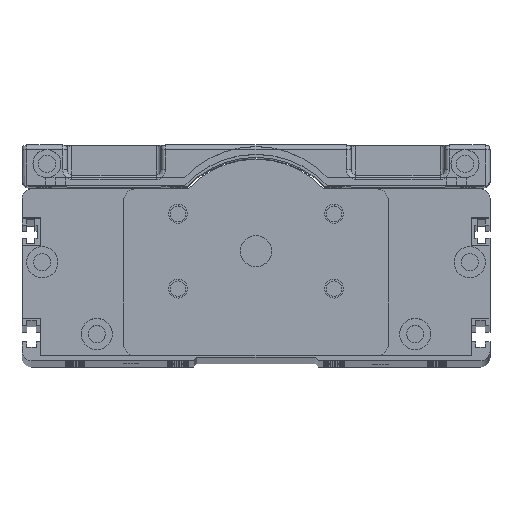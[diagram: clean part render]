
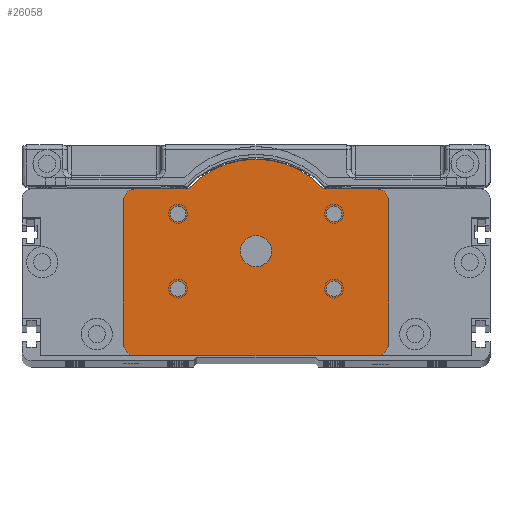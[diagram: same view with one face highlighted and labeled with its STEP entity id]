
A CAD part, top view. The second image highlights one B-rep face of the part: STEP entity #26058.
In plain terms, the highlighted planar face has unit normal (0, 0, 1).
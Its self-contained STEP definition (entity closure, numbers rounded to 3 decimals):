
#24700=CARTESIAN_POINT('',(38.5,49.5,29.));
#24701=DIRECTION('',(0.,0.,1.));
#24702=DIRECTION('',(1.,0.,0.));
#24703=AXIS2_PLACEMENT_3D('',#24700,#24701,#24702);
#24709=CARTESIAN_POINT('',(38.5,4.,29.));
#24710=DIRECTION('',(0.,0.,1.));
#24711=DIRECTION('',(0.,-1.,0.));
#24712=AXIS2_PLACEMENT_3D('',#24709,#24710,#24711);
#24861=CARTESIAN_POINT('',(-38.5,49.5,29.));
#24862=DIRECTION('',(0.,0.,1.));
#24863=DIRECTION('',(0.,1.,0.));
#24864=AXIS2_PLACEMENT_3D('',#24861,#24862,#24863);
#24875=DIRECTION('',(0.,1.,0.));
#24876=VECTOR('',#24875,45.5);
#24877=CARTESIAN_POINT('',(42.5,4.,29.));
#24878=LINE('',#24877,#24876);
#24879=DIRECTION('',(1.,0.,0.));
#24880=VECTOR('',#24879,77.);
#24881=CARTESIAN_POINT('',(-38.5,0.,29.));
#24882=LINE('',#24881,#24880);
#24883=DIRECTION('',(0.,1.,0.));
#24884=VECTOR('',#24883,45.5);
#24885=CARTESIAN_POINT('',(-42.5,4.,29.));
#24886=LINE('',#24885,#24884);
#24887=DIRECTION('',(-1.,0.,0.));
#24888=VECTOR('',#24887,16.815);
#24889=CARTESIAN_POINT('',(-21.685,53.5,29.));
#24890=LINE('',#24889,#24888);
#24891=CARTESIAN_POINT('',(0.,33.5,29.));
#24892=DIRECTION('',(0.,0.,1.));
#24893=DIRECTION('',(0.735,0.678,0.));
#24894=AXIS2_PLACEMENT_3D('',#24891,#24892,#24893);
#24896=DIRECTION('',(-1.,0.,0.));
#24897=VECTOR('',#24896,16.815);
#24898=CARTESIAN_POINT('',(38.5,53.5,29.));
#24899=LINE('',#24898,#24897);
#24900=CARTESIAN_POINT('',(0.,33.5,29.));
#24901=DIRECTION('',(0.,0.,1.));
#24902=DIRECTION('',(1.,0.,0.));
#24903=AXIS2_PLACEMENT_3D('',#24900,#24901,#24902);
#24905=CARTESIAN_POINT('',(0.,33.5,29.));
#24906=DIRECTION('',(0.,0.,1.));
#24907=DIRECTION('',(-1.,0.,0.));
#24908=AXIS2_PLACEMENT_3D('',#24905,#24906,#24907);
#24910=CARTESIAN_POINT('',(25.,45.5,29.));
#24911=DIRECTION('',(0.,0.,-1.));
#24912=DIRECTION('',(-1.,0.,0.));
#24913=AXIS2_PLACEMENT_3D('',#24910,#24911,#24912);
#24915=CARTESIAN_POINT('',(25.,45.5,29.));
#24916=DIRECTION('',(0.,0.,-1.));
#24917=DIRECTION('',(1.,0.,0.));
#24918=AXIS2_PLACEMENT_3D('',#24915,#24916,#24917);
#24920=CARTESIAN_POINT('',(25.,21.5,29.));
#24921=DIRECTION('',(0.,0.,1.));
#24922=DIRECTION('',(-1.,0.,0.));
#24923=AXIS2_PLACEMENT_3D('',#24920,#24921,#24922);
#24925=CARTESIAN_POINT('',(25.,21.5,29.));
#24926=DIRECTION('',(0.,0.,1.));
#24927=DIRECTION('',(1.,0.,0.));
#24928=AXIS2_PLACEMENT_3D('',#24925,#24926,#24927);
#24930=CARTESIAN_POINT('',(-25.,45.5,29.));
#24931=DIRECTION('',(0.,0.,1.));
#24932=DIRECTION('',(1.,0.,0.));
#24933=AXIS2_PLACEMENT_3D('',#24930,#24931,#24932);
#24935=CARTESIAN_POINT('',(-25.,45.5,29.));
#24936=DIRECTION('',(0.,0.,1.));
#24937=DIRECTION('',(-1.,0.,0.));
#24938=AXIS2_PLACEMENT_3D('',#24935,#24936,#24937);
#24940=CARTESIAN_POINT('',(-25.,21.5,29.));
#24941=DIRECTION('',(0.,0.,-1.));
#24942=DIRECTION('',(1.,0.,0.));
#24943=AXIS2_PLACEMENT_3D('',#24940,#24941,#24942);
#24945=CARTESIAN_POINT('',(-25.,21.5,29.));
#24946=DIRECTION('',(0.,0.,-1.));
#24947=DIRECTION('',(-1.,0.,0.));
#24948=AXIS2_PLACEMENT_3D('',#24945,#24946,#24947);
#24963=CARTESIAN_POINT('',(-38.5,4.,29.));
#24964=DIRECTION('',(0.,0.,1.));
#24965=DIRECTION('',(-1.,0.,0.));
#24966=AXIS2_PLACEMENT_3D('',#24963,#24964,#24965);
#25192=CARTESIAN_POINT('',(21.685,53.5,29.));
#25193=CARTESIAN_POINT('',(-21.685,53.5,29.));
#25194=VERTEX_POINT('',#25192);
#25195=VERTEX_POINT('',#25193);
#25240=CARTESIAN_POINT('',(38.5,53.5,29.));
#25242=VERTEX_POINT('',#25240);
#25244=CARTESIAN_POINT('',(42.5,49.5,29.));
#25246=VERTEX_POINT('',#25244);
#25249=CARTESIAN_POINT('',(38.5,0.,29.));
#25251=VERTEX_POINT('',#25249);
#25252=CARTESIAN_POINT('',(42.5,4.,29.));
#25253=VERTEX_POINT('',#25252);
#25257=CARTESIAN_POINT('',(-38.5,53.5,29.));
#25259=VERTEX_POINT('',#25257);
#25260=CARTESIAN_POINT('',(-42.5,49.5,29.));
#25261=VERTEX_POINT('',#25260);
#25264=CARTESIAN_POINT('',(-38.5,0.,29.));
#25266=VERTEX_POINT('',#25264);
#25268=CARTESIAN_POINT('',(-42.5,4.,29.));
#25270=VERTEX_POINT('',#25268);
#25280=CARTESIAN_POINT('',(22.5,45.5,29.));
#25281=CARTESIAN_POINT('',(27.5,45.5,29.));
#25282=VERTEX_POINT('',#25280);
#25283=VERTEX_POINT('',#25281);
#25288=CARTESIAN_POINT('',(22.5,21.5,29.));
#25289=CARTESIAN_POINT('',(27.5,21.5,29.));
#25290=VERTEX_POINT('',#25288);
#25291=VERTEX_POINT('',#25289);
#25296=CARTESIAN_POINT('',(-22.5,45.5,29.));
#25297=CARTESIAN_POINT('',(-27.5,45.5,29.));
#25298=VERTEX_POINT('',#25296);
#25299=VERTEX_POINT('',#25297);
#25304=CARTESIAN_POINT('',(-22.5,21.5,29.));
#25305=CARTESIAN_POINT('',(-27.5,21.5,29.));
#25306=VERTEX_POINT('',#25304);
#25307=VERTEX_POINT('',#25305);
#25428=CARTESIAN_POINT('',(5.,33.5,29.));
#25429=CARTESIAN_POINT('',(-5.,33.5,29.));
#25430=VERTEX_POINT('',#25428);
#25431=VERTEX_POINT('',#25429);
#26008=CARTESIAN_POINT('',(0.,0.,29.));
#26009=DIRECTION('',(0.,0.,1.));
#26010=DIRECTION('',(1.,0.,0.));
#26011=AXIS2_PLACEMENT_3D('',#26008,#26009,#26010);
#26012=PLANE('',#26011);
#26013=ORIENTED_EDGE('',*,*,#25748,.F.);
#26014=ORIENTED_EDGE('',*,*,#25762,.F.);
#26015=ORIENTED_EDGE('',*,*,#25774,.F.);
#26016=ORIENTED_EDGE('',*,*,#25792,.F.);
#26018=ORIENTED_EDGE('',*,*,#26017,.F.);
#26020=ORIENTED_EDGE('',*,*,#26019,.T.);
#26021=ORIENTED_EDGE('',*,*,#26000,.F.);
#26022=ORIENTED_EDGE('',*,*,#25734,.F.);
#26024=ORIENTED_EDGE('',*,*,#26023,.F.);
#26025=ORIENTED_EDGE('',*,*,#25702,.F.);
#26026=EDGE_LOOP('',(#26013,#26014,#26015,#26016,#26018,#26020,#26021,#26022,
#26024,#26025));
#26027=FACE_OUTER_BOUND('',#26026,.F.);
#26029=ORIENTED_EDGE('',*,*,#26028,.T.);
#26031=ORIENTED_EDGE('',*,*,#26030,.T.);
#26032=EDGE_LOOP('',(#26029,#26031));
#26033=FACE_BOUND('',#26032,.F.);
#26035=ORIENTED_EDGE('',*,*,#26034,.F.);
#26037=ORIENTED_EDGE('',*,*,#26036,.F.);
#26038=EDGE_LOOP('',(#26035,#26037));
#26039=FACE_BOUND('',#26038,.F.);
#26041=ORIENTED_EDGE('',*,*,#26040,.T.);
#26043=ORIENTED_EDGE('',*,*,#26042,.T.);
#26044=EDGE_LOOP('',(#26041,#26043));
#26045=FACE_BOUND('',#26044,.F.);
#26047=ORIENTED_EDGE('',*,*,#26046,.T.);
#26049=ORIENTED_EDGE('',*,*,#26048,.T.);
#26050=EDGE_LOOP('',(#26047,#26049));
#26051=FACE_BOUND('',#26050,.F.);
#26053=ORIENTED_EDGE('',*,*,#26052,.F.);
#26055=ORIENTED_EDGE('',*,*,#26054,.F.);
#26056=EDGE_LOOP('',(#26053,#26055));
#26057=FACE_BOUND('',#26056,.F.);
#26058=ADVANCED_FACE('',(#26027,#26033,#26039,#26045,#26051,#26057),#26012,.T.);
#24704=CIRCLE('',#24703,4.);
#24713=CIRCLE('',#24712,4.);
#24865=CIRCLE('',#24864,4.);
#24895=CIRCLE('',#24894,29.5);
#24904=CIRCLE('',#24903,5.);
#24909=CIRCLE('',#24908,5.);
#24914=CIRCLE('',#24913,2.5);
#24919=CIRCLE('',#24918,2.5);
#24924=CIRCLE('',#24923,2.5);
#24929=CIRCLE('',#24928,2.5);
#24934=CIRCLE('',#24933,2.5);
#24939=CIRCLE('',#24938,2.5);
#24944=CIRCLE('',#24943,2.5);
#24949=CIRCLE('',#24948,2.5);
#24967=CIRCLE('',#24966,4.);
#25702=EDGE_CURVE('',#25242,#25194,#24899,.T.);
#25734=EDGE_CURVE('',#25195,#25259,#24890,.T.);
#25748=EDGE_CURVE('',#25246,#25242,#24704,.T.);
#25762=EDGE_CURVE('',#25253,#25246,#24878,.T.);
#25774=EDGE_CURVE('',#25251,#25253,#24713,.T.);
#25792=EDGE_CURVE('',#25266,#25251,#24882,.T.);
#26000=EDGE_CURVE('',#25259,#25261,#24865,.T.);
#26017=EDGE_CURVE('',#25270,#25266,#24967,.T.);
#26019=EDGE_CURVE('',#25270,#25261,#24886,.T.);
#26023=EDGE_CURVE('',#25194,#25195,#24895,.T.);
#26028=EDGE_CURVE('',#25430,#25431,#24904,.T.);
#26030=EDGE_CURVE('',#25431,#25430,#24909,.T.);
#26034=EDGE_CURVE('',#25282,#25283,#24914,.T.);
#26036=EDGE_CURVE('',#25283,#25282,#24919,.T.);
#26040=EDGE_CURVE('',#25290,#25291,#24924,.T.);
#26042=EDGE_CURVE('',#25291,#25290,#24929,.T.);
#26046=EDGE_CURVE('',#25298,#25299,#24934,.T.);
#26048=EDGE_CURVE('',#25299,#25298,#24939,.T.);
#26052=EDGE_CURVE('',#25306,#25307,#24944,.T.);
#26054=EDGE_CURVE('',#25307,#25306,#24949,.T.);
